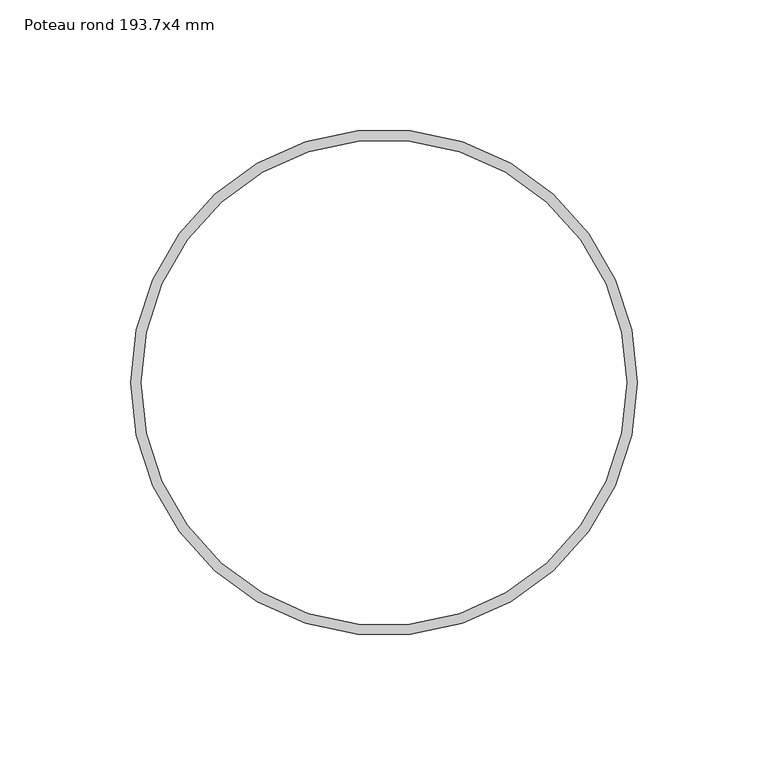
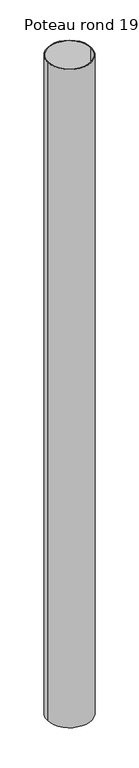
"""IFC4 building model written with IfcOpenShell, lengths in millimetres: column geometry, Poteau RO (EN 10219-2) : Poteau rond 193.7x4 mm."""

from ifc_helpers import new_model, si_unit, point, frame, origin, origin_2d, place, context, project, spatial, circle_curve, trimmed, segment, composite_curve, outline, extrude, source, transform, mapped, element, save


def poteau_rond_193_7x4_mm_29ad06c1(model_context):
    return source(origin(), model_context, "Body", "SweptSolid", [
        extrude(outline(composite_curve([segment(trimmed(circle_curve(origin_2d(), 96.85), [point((-96.85, 0.0))], [point((96.85, 0.0))], False, "CARTESIAN"), True, "CONTINUOUS"), segment(trimmed(circle_curve(origin_2d(), 96.85), [point((96.85, 0.0))], [point((-96.85, 0.0))], False, "CARTESIAN"), True, "CONTINUOUS")], self_intersect=False), holes=[composite_curve([segment(trimmed(circle_curve(origin_2d(), 92.85), [point((-92.85, 0.0))], [point((92.85, 0.0))], True, "CARTESIAN"), True, "CONTINUOUS"), segment(trimmed(circle_curve(origin_2d(), 92.85), [point((92.85, 0.0))], [point((-92.85, 0.0))], True, "CARTESIAN"), True, "CONTINUOUS")], self_intersect=False)]), frame((0.0, 0.0, 869500.0), z_axis=(0.0, 0.0, 1.0), x_axis=(1.0, 0.0, 0.0)), (0.0, 0.0, 1.0), 3048.4830041),
    ])


if __name__ == "__main__":
    model = new_model("IFC4")
    model_context = context("Model", 3, world=origin())
    ifc_project = project(units=[si_unit("LENGTHUNIT", "METRE", prefix="MILLI")], contexts=[model_context])
    site = spatial("IfcSite", under=ifc_project)
    building = spatial("IfcBuilding", under=site)
    placement = place(None, origin())
    poteau_rond_193_7x4_mm_shape = poteau_rond_193_7x4_mm_29ad06c1(model_context)
    element("IfcColumn", 1, ObjectType="Poteau RO (EN 10219-2) : Poteau rond 193.7x4 mm", at=placement, inside=building, context=model_context, shape_type="MappedRepresentation", body=[
        mapped(poteau_rond_193_7x4_mm_shape, transform((0.0, 0.0, 0.0), x_axis=(1.0, 0.0, 0.0), y_axis=(0.0, 1.0, 0.0), z_axis=(0.0, 0.0, 1.0))),
    ])
    save(model, "model.ifc")
